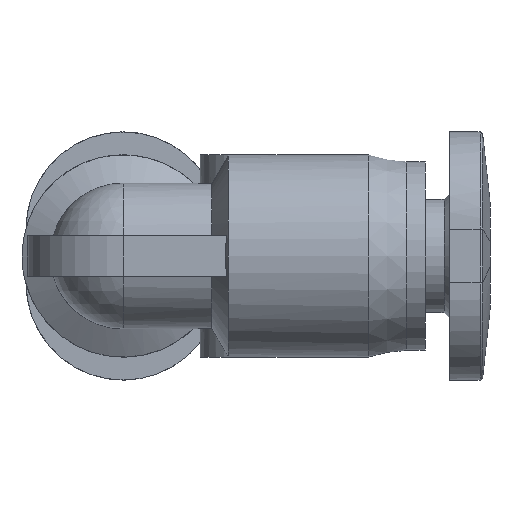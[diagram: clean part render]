
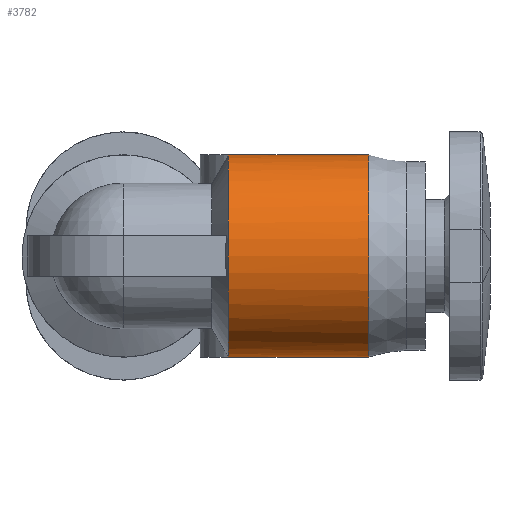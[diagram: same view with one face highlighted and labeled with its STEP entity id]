
A CAD part, left-side view. The second image highlights one B-rep face of the part: STEP entity #3782.
In plain terms, the highlighted cylindrical face has radius 3.75 mm (diameter 7.5 mm), a full revolution.
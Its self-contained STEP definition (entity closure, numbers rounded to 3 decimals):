
#3539=CARTESIAN_POINT('',(3.313,-3.9,1.756));
#3540=VERTEX_POINT('',#3539);
#3541=CARTESIAN_POINT('',(3.313,-3.9,-1.756));
#3542=VERTEX_POINT('',#3541);
#3553=CARTESIAN_POINT('',(3.313,-3.9,-1.756));
#3554=CARTESIAN_POINT('',(3.255,-3.981,-1.865));
#3555=CARTESIAN_POINT('',(3.19,-4.085,-1.974));
#3556=CARTESIAN_POINT('',(3.132,-4.197,-2.063));
#3557=CARTESIAN_POINT('',(3.078,-4.3,-2.144));
#3558=CARTESIAN_POINT('',(3.032,-4.405,-2.208));
#3559=CARTESIAN_POINT('',(2.99,-4.525,-2.263));
#3560=CARTESIAN_POINT('',(2.922,-4.719,-2.353));
#3561=CARTESIAN_POINT('',(2.873,-4.947,-2.411));
#3562=CARTESIAN_POINT('',(2.857,-5.168,-2.429));
#3563=CARTESIAN_POINT('',(2.846,-5.309,-2.442));
#3564=CARTESIAN_POINT('',(2.848,-5.444,-2.44));
#3565=CARTESIAN_POINT('',(2.861,-5.586,-2.424));
#3566=CARTESIAN_POINT('',(2.882,-5.808,-2.399));
#3567=CARTESIAN_POINT('',(2.937,-6.033,-2.335));
#3568=CARTESIAN_POINT('',(3.007,-6.221,-2.241));
#3569=CARTESIAN_POINT('',(3.043,-6.32,-2.192));
#3570=CARTESIAN_POINT('',(3.082,-6.407,-2.137));
#3571=CARTESIAN_POINT('',(3.127,-6.495,-2.069));
#3572=CARTESIAN_POINT('',(3.182,-6.6,-1.987));
#3573=CARTESIAN_POINT('',(3.243,-6.698,-1.887));
#3574=CARTESIAN_POINT('',(3.298,-6.778,-1.785));
#3575=CARTESIAN_POINT('',(3.344,-6.844,-1.701));
#3576=CARTESIAN_POINT('',(3.386,-6.898,-1.616));
#3577=CARTESIAN_POINT('',(3.427,-6.948,-1.522));
#3578=CARTESIAN_POINT('',(3.532,-7.074,-1.285));
#3579=CARTESIAN_POINT('',(3.624,-7.16,-1.007));
#3580=CARTESIAN_POINT('',(3.681,-7.211,-0.718));
#3581=CARTESIAN_POINT('',(3.725,-7.251,-0.489));
#3582=CARTESIAN_POINT('',(3.748,-7.269,-0.253));
#3583=CARTESIAN_POINT('',(3.75,-7.271,-0.03));
#3584=CARTESIAN_POINT('',(3.751,-7.272,0.116));
#3585=CARTESIAN_POINT('',(3.744,-7.266,0.266));
#3586=CARTESIAN_POINT('',(3.727,-7.251,0.418));
#3587=CARTESIAN_POINT('',(3.689,-7.219,0.755));
#3588=CARTESIAN_POINT('',(3.601,-7.144,1.094));
#3589=CARTESIAN_POINT('',(3.485,-7.015,1.384));
#3590=CARTESIAN_POINT('',(3.442,-6.967,1.493));
#3591=CARTESIAN_POINT('',(3.395,-6.91,1.596));
#3592=CARTESIAN_POINT('',(3.348,-6.847,1.689));
#3593=CARTESIAN_POINT('',(3.308,-6.794,1.769));
#3594=CARTESIAN_POINT('',(3.264,-6.731,1.848));
#3595=CARTESIAN_POINT('',(3.22,-6.659,1.922));
#3596=CARTESIAN_POINT('',(3.165,-6.569,2.014));
#3597=CARTESIAN_POINT('',(3.11,-6.466,2.097));
#3598=CARTESIAN_POINT('',(3.064,-6.363,2.161));
#3599=CARTESIAN_POINT('',(3.032,-6.29,2.208));
#3600=CARTESIAN_POINT('',(3.001,-6.209,2.25));
#3601=CARTESIAN_POINT('',(2.973,-6.123,2.286));
#3602=CARTESIAN_POINT('',(2.921,-5.966,2.353));
#3603=CARTESIAN_POINT('',(2.883,-5.79,2.398));
#3604=CARTESIAN_POINT('',(2.864,-5.615,2.421));
#3605=CARTESIAN_POINT('',(2.846,-5.448,2.442));
#3606=CARTESIAN_POINT('',(2.845,-5.288,2.443));
#3607=CARTESIAN_POINT('',(2.861,-5.121,2.425));
#3608=CARTESIAN_POINT('',(2.881,-4.898,2.401));
#3609=CARTESIAN_POINT('',(2.935,-4.673,2.337));
#3610=CARTESIAN_POINT('',(3.005,-4.484,2.244));
#3611=CARTESIAN_POINT('',(3.042,-4.384,2.194));
#3612=CARTESIAN_POINT('',(3.081,-4.295,2.139));
#3613=CARTESIAN_POINT('',(3.127,-4.206,2.07));
#3614=CARTESIAN_POINT('',(3.187,-4.09,1.98));
#3615=CARTESIAN_POINT('',(3.254,-3.984,1.868));
#3616=CARTESIAN_POINT('',(3.313,-3.9,1.756));
#3617=B_SPLINE_CURVE_WITH_KNOTS('',3,(#3553,#3554,#3555,#3556,#3557,#3558,#3559,#3560,#3561,#3562,#3563,#3564,#3565,#3566,#3567,#3568,#3569,#3570,#3571,#3572,#3573,#3574,#3575,#3576,#3577,#3578,#3579,#3580,#3581,#3582,#3583,#3584,#3585,#3586,#3587,#3588,#3589,#3590,#3591,#3592,#3593,#3594,#3595,#3596,#3597,#3598,#3599,#3600,#3601,#3602,#3603,#3604,#3605,#3606,#3607,#3608,#3609,#3610,#3611,#3612,#3613,#3614,#3615,#3616),.UNSPECIFIED.,.F.,.U.,(4,3,3,3,3,3,3,3,3,3,3,3,3,3,3,3,3,3,3,3,3,4),(0.183,0.226,0.266,0.33,0.371,0.435,0.469,0.509,0.542,0.626,0.693,0.737,0.834,0.871,0.902,0.94,0.968,1.018,1.067,1.131,1.165,1.209),.UNSPECIFIED.);
#3618=EDGE_CURVE('',#3542,#3540,#3617,.T.);
#3756=CARTESIAN_POINT('',(0.0,-6.5,0.0));
#3757=DIRECTION('',(0.0,1.0,0.0));
#3758=DIRECTION('',(-1.0,0.0,0.0));
#3759=AXIS2_PLACEMENT_3D('',#3756,#3757,#3758);
#3760=CYLINDRICAL_SURFACE('',#3759,3.75);
#3761=CARTESIAN_POINT('',(-3.75,-9.1,0.0));
#3762=VERTEX_POINT('',#3761);
#3763=CARTESIAN_POINT('',(0.0,-9.1,0.0));
#3764=DIRECTION('',(0.0,1.0,0.0));
#3765=DIRECTION('',(-1.0,0.0,0.0));
#3766=AXIS2_PLACEMENT_3D('',#3763,#3764,#3765);
#3767=CIRCLE('',#3766,3.75);
#3768=EDGE_CURVE('',#3762,#3762,#3767,.T.);
#3769=ORIENTED_EDGE('',*,*,#3768,.T.);
#3770=EDGE_LOOP('',(#3769));
#3771=FACE_OUTER_BOUND('',#3770,.T.);
#3772=ORIENTED_EDGE('',*,*,#3618,.T.);
#3773=CARTESIAN_POINT('',(0.0,-3.9,0.0));
#3774=DIRECTION('',(0.0,1.0,0.0));
#3775=DIRECTION('',(-1.0,0.0,0.0));
#3776=AXIS2_PLACEMENT_3D('',#3773,#3774,#3775);
#3777=CIRCLE('',#3776,3.75);
#3778=EDGE_CURVE('',#3542,#3540,#3777,.T.);
#3779=ORIENTED_EDGE('',*,*,#3778,.F.);
#3780=EDGE_LOOP('',(#3772,#3779));
#3781=FACE_BOUND('',#3780,.T.);
#3782=ADVANCED_FACE('',(#3771,#3781),#3760,.T.);
